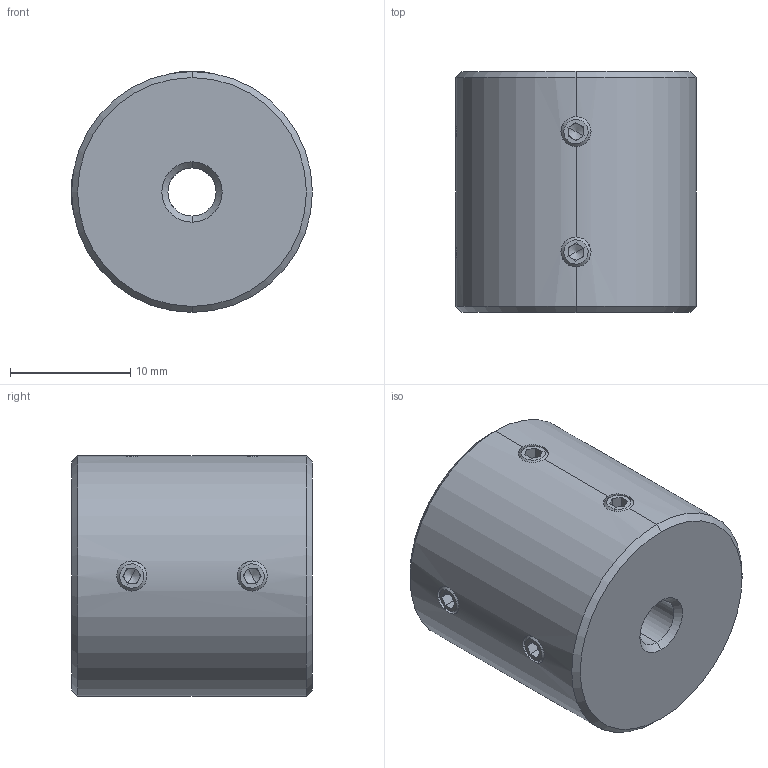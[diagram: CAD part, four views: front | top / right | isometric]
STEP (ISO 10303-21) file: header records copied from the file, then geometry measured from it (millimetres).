
FILE_DESCRIPTION (( 'STEP AP214' ), '1' );
FILE_NAME ('LL-D-D20L20-4-4.STEP', '2022-07-23T06:25:22', ( '' ), ( '' ), 'SwSTEP 2.0', 'SolidWorks 2022', '' );
FILE_SCHEMA (( 'AUTOMOTIVE_DESIGN' ));
Length unit declared in the file: millimetre
Products named in the file (1): LL-D-D20L20-4-4
Bounding box: 20 x 20 x 20 mm (x, y, z)
Volume: 5920.9 mm3; surface area: 2250.8 mm2
Topology: 1 solids, 1 shells, 110 faces, 280 edges, 172 vertices
Faces by surface type: plane 58, cone 32, cylinder 20
Entity records: 3562 total; most frequent: CARTESIAN_POINT 879, DIRECTION 566, ORIENTED_EDGE 544, EDGE_CURVE 272, AXIS2_PLACEMENT_3D 207, VERTEX_POINT 172, VECTOR 152, LINE 152
